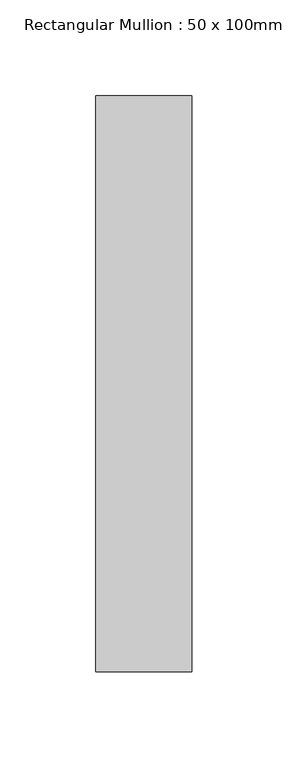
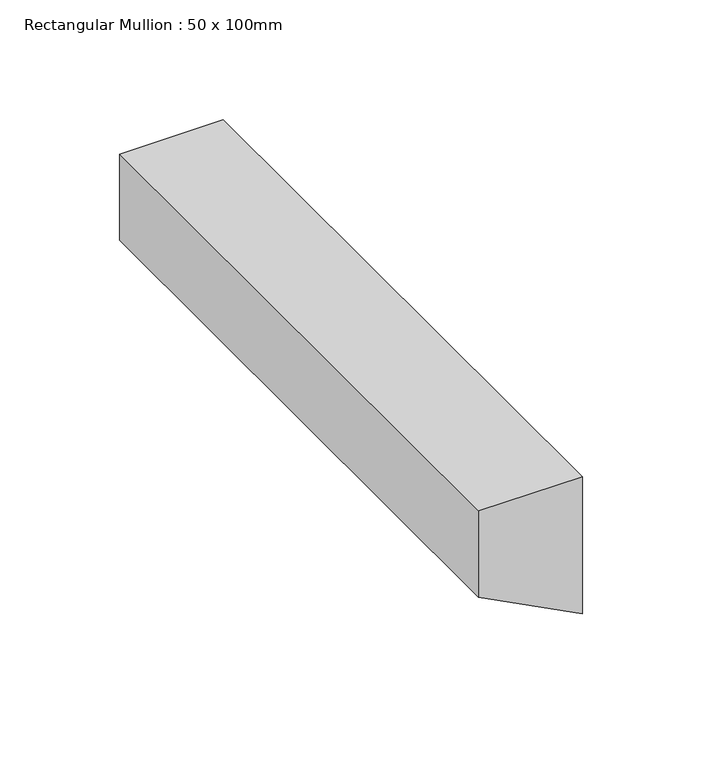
"""IFC4 building model written with IfcOpenShell, lengths in millimetres: member geometry, Rectangular Mullion : 50 x 100mm."""

from ifc_helpers import new_model, si_unit, frame, origin, place, context, project, spatial, polyline, outline, extrude, source, transform, mapped, element, save


def rectangular_mullion_50_x_100mm_9f614f47(model_context):
    return source(origin(), model_context, "Body", "SweptSolid", [
        extrude(outline(polyline([(0.0, 0.0), (0.0, -50.0), (-43.9716475, -50.0), (-70.0, 0.0), (0.0, 0.0)])), frame((0.0, -125.0, 0.0), z_axis=(0.0, 1.0, 0.0), x_axis=(0.0, 0.0, 1.0)), (0.0, 0.0, 1.0), 300.0),
    ])


if __name__ == "__main__":
    model = new_model("IFC4")
    model_context = context("Model", 3, world=origin())
    ifc_project = project(units=[si_unit("LENGTHUNIT", "METRE", prefix="MILLI")], contexts=[model_context])
    site = spatial("IfcSite", under=ifc_project)
    building = spatial("IfcBuilding", under=site)
    placement = place(None, origin())
    rectangular_mullion_50_x_100mm_shape = rectangular_mullion_50_x_100mm_9f614f47(model_context)
    element("IfcMember", 1, ObjectType="Rectangular Mullion : 50 x 100mm", at=placement, inside=building, context=model_context, shape_type="MappedRepresentation", body=[
        mapped(rectangular_mullion_50_x_100mm_shape, transform((0.0, 0.0, 0.0), x_axis=(1.0, 0.0, 0.0), y_axis=(0.0, 1.0, 0.0), z_axis=(0.0, 0.0, 1.0))),
    ])
    save(model, "model.ifc")
